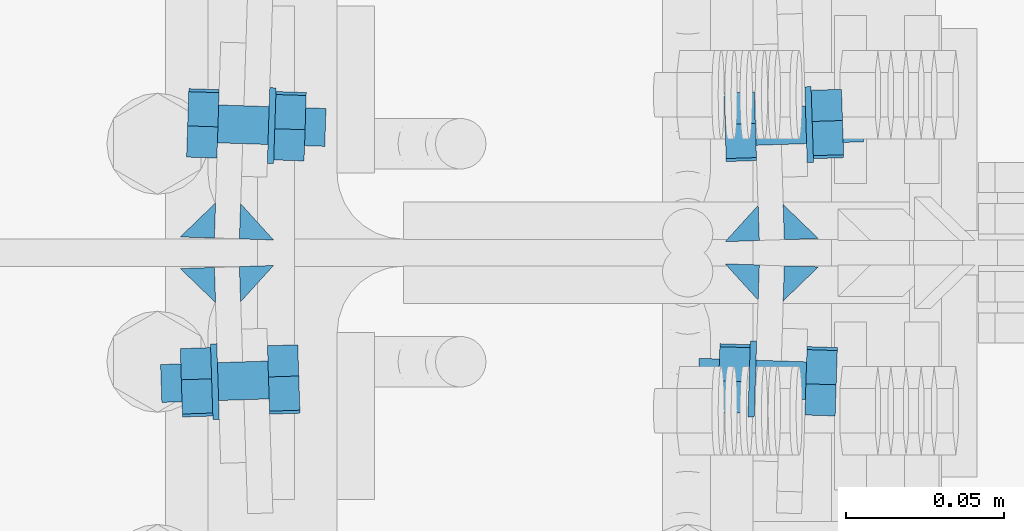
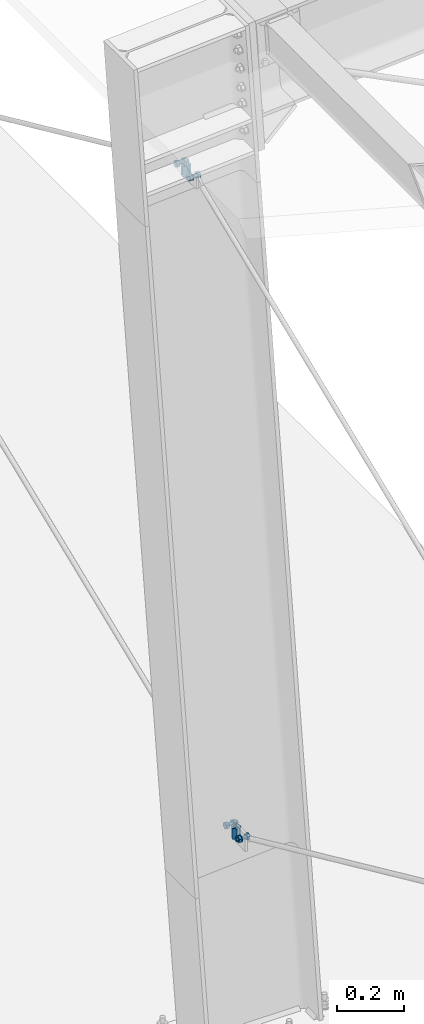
# One storey, part 33 of 72: 16 mechanical fasteners, 8 fasteners.
"""IFC4 building model written with IfcOpenShell, lengths in metres."""

from ifc_helpers import new_model, si_unit, frame, origin_with_axes, place, context, project, spatial, polyline, outline, extrude, type_object, element, save


model = new_model("IFC4")

# Units and contexts
model_context = context("Model", 3, precision=1e-05, world=origin_with_axes())
ifc_project = project(units=[si_unit("LENGTHUNIT", "METRE"), si_unit("AREAUNIT", "SQUARE_METRE"), si_unit("VOLUMEUNIT", "CUBIC_METRE"), si_unit("MASSUNIT", "GRAM", prefix="KILO"), si_unit("TIMEUNIT", "SECOND"), si_unit("PLANEANGLEUNIT", "RADIAN"), si_unit("SOLIDANGLEUNIT", "STERADIAN"), si_unit("THERMODYNAMICTEMPERATUREUNIT", "DEGREE_CELSIUS")], contexts=[model_context])

# Site, building, storey
placement_1 = place(None, origin_with_axes())
site = spatial("IfcSite", under=ifc_project, at=placement_1, Name="Italia", CompositionType="ELEMENT")
building = spatial("IfcBuilding", under=site, at=placement_1, Name="Pensilina", CompositionType="ELEMENT")
storey = spatial("IfcBuildingStorey", under=building, at=placement_1, Name="Storey 0", CompositionType="ELEMENT", Elevation=0.0)

# Mechanical fasteners
mechanical_fastener_type_1 = type_object("IfcMechanicalFastenerType", Name="Collegamento -197_-201", PredefinedType="BOLT")
placement_2 = place(placement_1, origin_with_axes())
mechanical_fastener_1_placement = place(placement_2, origin_with_axes())
element("IfcMechanicalFastener", 1, at=mechanical_fastener_1_placement, inside=storey, type_object=mechanical_fastener_type_1, Name="Collegamento -197_-201", NominalDiameter=0.0119999, context=model_context, shape_type="SweptSolid", body=[
    extrude(outline(polyline([(0.0, 0.0, 0.0), (0.0108352, -0.00515741, 0.0), (0.0207195, 0.00164741, 0.0), (0.0197682, 0.0136096, 0.0), (0.00893307, 0.0187671, 0.0), (-0.000950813, 0.0119623, 0.0), (0.0, 0.0, 0.0)])), frame((0.893182, 5.22959, 0.818424), z_axis=(0.999465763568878, -0.03268326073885, 0.0), x_axis=(0.03268326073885, 0.999465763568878, 0.0)), (0.0, 0.0, 1.0), 0.00959999),
])
mechanical_fastener_type_2 = type_object("IfcMechanicalFastenerType", Name="Collegamento -197_-201", PredefinedType="BOLT")
mechanical_fastener_2_placement = place(placement_2, origin_with_axes())
element("IfcMechanicalFastener", 2, at=mechanical_fastener_2_placement, inside=storey, type_object=mechanical_fastener_type_2, Name="Collegamento -197_-201", NominalDiameter=0.012, context=model_context, shape_type="SweptSolid", body=[
    extrude(outline(polyline([(0.0, 0.0, 0.0), (-0.000204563, -0.00155294, 0.0), (-0.000803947, -0.00300002, 0.0), (-0.00175714, -0.00424266, 0.0), (-0.00300026, -0.00519615, 0.0), (-0.00444698, -0.00579554, 0.0), (-0.00600004, -0.00599998, 0.0), (-0.0075531, -0.00579554, 0.0), (-0.00899982, -0.00519615, 0.0), (-0.0102429, -0.00424266, 0.0), (-0.0111961, -0.00300002, 0.0), (-0.011796, -0.00155294, 0.0), (-0.0120001, 0.0, 0.0), (-0.011796, 0.00155294, 0.0), (-0.0111961, 0.00300002, 0.0), (-0.0102429, 0.00424266, 0.0), (-0.00899982, 0.00519615, 0.0), (-0.0075531, 0.00579554, 0.0), (-0.00600004, 0.00599998, 0.0), (-0.00444698, 0.00579554, 0.0), (-0.00300026, 0.00519615, 0.0), (-0.00175714, 0.00424266, 0.0), (-0.000803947, 0.00300002, 0.0), (-0.000204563, 0.00155294, 0.0), (0.0, 0.0, 0.0)])), frame((0.859719, 5.24658, 0.825228), z_axis=(0.999465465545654, -0.032691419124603, 0.0), x_axis=(0.032691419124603, 0.999465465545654, 0.0)), (0.0, 0.0, 1.0), 0.034),
])
mechanical_fastener_type_3 = type_object("IfcMechanicalFastenerType", Name="Collegamento -197_-201", PredefinedType="BOLT")
mechanical_fastener_3_placement = place(placement_2, origin_with_axes())
element("IfcMechanicalFastener", 3, at=mechanical_fastener_3_placement, inside=storey, type_object=mechanical_fastener_type_3, Name="Collegamento -197_-201", NominalDiameter=0.0119999, context=model_context, shape_type="SweptSolid", body=[
    extrude(outline(polyline([(0.0, 0.0, 0.0), (0.0108356, -0.00515741, 0.0), (0.0207195, 0.00164741, 0.0), (0.0197687, 0.0136096, 0.0), (0.00893307, 0.0187671, 0.0), (-0.000950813, 0.0119623, 0.0), (0.0, 0.0, 0.0)])), frame((0.865596, 5.2305, 0.818424), z_axis=(0.999465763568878, -0.03268326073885, 0.0), x_axis=(0.03268326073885, 0.999465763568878, 0.0)), (0.0, 0.0, 1.0), 0.00959999),
])
mechanical_fastener_type_4 = type_object("IfcMechanicalFastenerType", Name="Collegamento -197_-201", PredefinedType="BOLT")
mechanical_fastener_4_placement = place(placement_2, origin_with_axes())
element("IfcMechanicalFastener", 4, at=mechanical_fastener_4_placement, inside=storey, type_object=mechanical_fastener_type_4, Name="Collegamento -197_-201", NominalDiameter=0.024, context=model_context, shape_type="SweptSolid", body=[
    extrude(outline(polyline([(0.0, 0.0, 0.0), (-0.000408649, -0.00310582, 0.0), (-0.00160742, -0.00599998, 0.0), (-0.00351477, -0.00848526, 0.0), (-0.00600004, -0.0103923, 0.0), (-0.00889397, -0.0115911, 0.0), (-0.0119996, -0.012, 0.0), (-0.0151057, -0.0115911, 0.0), (-0.0179996, -0.0103923, 0.0), (-0.0204849, -0.00848526, 0.0), (-0.0223923, -0.00599998, 0.0), (-0.0235906, -0.00310582, 0.0), (-0.0239997, 0.0, 0.0), (-0.0235906, 0.00310582, 0.0), (-0.0223923, 0.00599998, 0.0), (-0.0204849, 0.00848526, 0.0), (-0.0179996, 0.0103923, 0.0), (-0.0151057, 0.0115911, 0.0), (-0.0119996, 0.012, 0.0), (-0.00889397, 0.0115911, 0.0), (-0.00600004, 0.0103923, 0.0), (-0.00351477, 0.00848526, 0.0), (-0.00160742, 0.00599998, 0.0), (-0.000408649, 0.00310582, 0.0), (0.0, 0.0, 0.0)])), frame((0.875906, 5.25205, 0.825228), z_axis=(0.999466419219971, -0.032663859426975, 0.0), x_axis=(0.032663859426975, 0.999466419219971, 0.0)), (0.0, 0.0, 1.0), 0.00199997),
])

# Fasteners
fastener_type_1 = type_object("IfcFastenerType", Name="Collegamento -197_-201", PredefinedType="WELD")
fastener_1_placement = place(placement_2, origin_with_axes())
element("IfcFastener", 5, at=fastener_1_placement, inside=storey, type_object=fastener_type_1, Name="Collegamento -197_-201", context=model_context, shape_type="SweptSolid", body=[
    extrude(outline(polyline([(0.0, 0.0, 0.0), (-0.0115218, 0.0104669, 0.0), (-0.000354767, 0.0108324, 0.0), (0.0, 0.0, 0.0)])), frame((0.867914, 5.2765, 0.843087), z_axis=(0.0, 0.0, -1.0), x_axis=(0.0, 1.0, 0.0)), (0.0, 0.0, 1.0), 0.0401),
])
fastener_type_2 = type_object("IfcFastenerType", Name="Collegamento -197_-201", PredefinedType="WELD")
fastener_2_placement = place(placement_2, origin_with_axes())
element("IfcFastener", 6, at=fastener_2_placement, inside=storey, type_object=fastener_type_2, Name="Collegamento -197_-201", context=model_context, shape_type="SweptSolid", body=[
    extrude(outline(polyline([(0.0, 0.0, 0.0), (-0.0108128, 0.0111977, 0.0), (0.000354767, 0.0108324, 0.0), (0.0, 0.0, 0.0)])), frame((0.897474, 5.27553, 0.802987), z_axis=(0.0, 0.0, 1.0), x_axis=(0.0, 1.0, 0.0)), (0.0, 0.0, 1.0), 0.0401001),
])

# Mechanical fasteners
mechanical_fastener_type_5 = type_object("IfcMechanicalFastenerType", Name="Collegamento -197_-203", PredefinedType="BOLT")
mechanical_fastener_5_placement = place(placement_2, origin_with_axes())
element("IfcMechanicalFastener", 7, at=mechanical_fastener_5_placement, inside=storey, type_object=mechanical_fastener_type_5, Name="Collegamento -197_-203", NominalDiameter=0.0119999, context=model_context, shape_type="SweptSolid", body=[
    extrude(outline(polyline([(0.0, 0.0, 0.0), (0.0108352, -0.00515747, 0.0), (0.0207191, 0.00164735, 0.0), (0.0197682, 0.0136096, 0.0), (0.00893307, 0.0187671, 0.0), (-0.00095129, 0.0119622, 0.0), (0.0, 0.0, 0.0)])), frame((0.87719, 5.32988, 0.818423), z_axis=(-0.999465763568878, -0.03268326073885, 0.0), x_axis=(0.03268326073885, -0.999465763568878, 0.0)), (0.0, 0.0, 1.0), 0.00959999),
])
mechanical_fastener_type_6 = type_object("IfcMechanicalFastenerType", Name="Collegamento -197_-203", PredefinedType="BOLT")
mechanical_fastener_6_placement = place(placement_2, origin_with_axes())
element("IfcMechanicalFastener", 8, at=mechanical_fastener_6_placement, inside=storey, type_object=mechanical_fastener_type_6, Name="Collegamento -197_-203", NominalDiameter=0.012, context=model_context, shape_type="SweptSolid", body=[
    extrude(outline(polyline([(0.0, 0.0, 0.0), (-0.000204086, -0.00155294, 0.0), (-0.000803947, -0.00300002, 0.0), (-0.00175714, -0.00424266, 0.0), (-0.00299978, -0.00519615, 0.0), (-0.00444698, -0.00579554, 0.0), (-0.00600004, -0.00599998, 0.0), (-0.00755262, -0.00579554, 0.0), (-0.00899982, -0.00519615, 0.0), (-0.0102425, -0.00424266, 0.0), (-0.0111957, -0.00300002, 0.0), (-0.0117955, -0.00155294, 0.0), (-0.0119996, 0.0, 0.0), (-0.0117955, 0.00155294, 0.0), (-0.0111957, 0.00300002, 0.0), (-0.0102425, 0.00424266, 0.0), (-0.00899982, 0.00519615, 0.0), (-0.00755262, 0.00579554, 0.0), (-0.00600004, 0.00599998, 0.0), (-0.00444698, 0.00579554, 0.0), (-0.00299978, 0.00519615, 0.0), (-0.00175714, 0.00424266, 0.0), (-0.000803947, 0.00300002, 0.0), (-0.000204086, 0.00155294, 0.0), (0.0, 0.0, 0.0)])), frame((0.911691, 5.31512, 0.825228), z_axis=(-0.999465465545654, -0.032691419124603, 0.0), x_axis=(0.032691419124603, -0.999465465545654, 0.0)), (0.0, 0.0, 1.0), 0.034),
])
mechanical_fastener_type_7 = type_object("IfcMechanicalFastenerType", Name="Collegamento -197_-203", PredefinedType="BOLT")
mechanical_fastener_7_placement = place(placement_2, origin_with_axes())
element("IfcMechanicalFastener", 9, at=mechanical_fastener_7_placement, inside=storey, type_object=mechanical_fastener_type_7, Name="Collegamento -197_-203", NominalDiameter=0.0119999, context=model_context, shape_type="SweptSolid", body=[
    extrude(outline(polyline([(0.0, 0.0, 0.0), (0.0108352, -0.00515747, 0.0), (0.0207191, 0.00164735, 0.0), (0.0197682, 0.0136096, 0.0), (0.00893307, 0.0187671, 0.0), (-0.00095129, 0.0119622, 0.0), (0.0, 0.0, 0.0)])), frame((0.904776, 5.33079, 0.818423), z_axis=(-0.999464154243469, -0.032732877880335, 0.0), x_axis=(0.032732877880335, -0.999464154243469, 0.0)), (0.0, 0.0, 1.0), 0.0096),
])
mechanical_fastener_type_8 = type_object("IfcMechanicalFastenerType", Name="Collegamento -197_-203", PredefinedType="BOLT")
mechanical_fastener_8_placement = place(placement_2, origin_with_axes())
element("IfcMechanicalFastener", 10, at=mechanical_fastener_8_placement, inside=storey, type_object=mechanical_fastener_type_8, Name="Collegamento -197_-203", NominalDiameter=0.024, context=model_context, shape_type="SweptSolid", body=[
    extrude(outline(polyline([(0.0, 0.0, 0.0), (-0.000408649, -0.00310582, 0.0), (-0.00160694, -0.00599998, 0.0), (-0.00351429, -0.00848526, 0.0), (-0.00599957, -0.0103923, 0.0), (-0.00889349, -0.0115911, 0.0), (-0.0119996, -0.012, 0.0), (-0.0151052, -0.0115911, 0.0), (-0.0179996, -0.0103923, 0.0), (-0.0204844, -0.00848526, 0.0), (-0.0223923, -0.00599998, 0.0), (-0.0235906, -0.00310582, 0.0), (-0.0239992, 0.0, 0.0), (-0.0235906, 0.00310582, 0.0), (-0.0223923, 0.00599998, 0.0), (-0.0204844, 0.00848526, 0.0), (-0.0179996, 0.0103923, 0.0), (-0.0151052, 0.0115911, 0.0), (-0.0119996, 0.012, 0.0), (-0.00889349, 0.0115911, 0.0), (-0.00599957, 0.0103923, 0.0), (-0.00351429, 0.00848526, 0.0), (-0.00160694, 0.00599998, 0.0), (-0.000408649, 0.00310582, 0.0), (0.0, 0.0, 0.0)])), frame((0.895896, 5.3086, 0.825228), z_axis=(-0.999466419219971, -0.032663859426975, 0.0), x_axis=(0.032663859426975, -0.999466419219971, 0.0)), (0.0, 0.0, 1.0), 0.00199997),
])

# Fasteners
fastener_type_3 = type_object("IfcFastenerType", Name="Collegamento -197_-203", PredefinedType="WELD")
fastener_3_placement = place(placement_2, origin_with_axes())
element("IfcFastener", 11, at=fastener_3_placement, inside=storey, type_object=fastener_type_3, Name="Collegamento -197_-203", context=model_context, shape_type="SweptSolid", body=[
    extrude(outline(polyline([(0.0, 0.0, 0.0), (0.0108128, -0.0111977, 0.0), (-0.000354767, -0.0108324, 0.0), (0.0, 0.0, 0.0)])), frame((0.897474, 5.28447, 0.843087), z_axis=(0.0, 0.0, -1.0), x_axis=(0.0, 1.0, 0.0)), (0.0, 0.0, 1.0), 0.0401002),
])
fastener_type_4 = type_object("IfcFastenerType", Name="Collegamento -197_-203", PredefinedType="WELD")
fastener_4_placement = place(placement_2, origin_with_axes())
element("IfcFastener", 12, at=fastener_4_placement, inside=storey, type_object=fastener_type_4, Name="Collegamento -197_-203", context=model_context, shape_type="SweptSolid", body=[
    extrude(outline(polyline([(0.0, 0.0, 0.0), (0.0115218, -0.0104669, 0.0), (0.000354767, -0.0108324, 0.0), (0.0, 0.0, 0.0)])), frame((0.867914, 5.2835, 0.802987), z_axis=(0.0, 0.0, 1.0), x_axis=(0.0, 1.0, 0.0)), (0.0, 0.0, 1.0), 0.0401002),
])

# Mechanical fasteners
mechanical_fastener_type_9 = type_object("IfcMechanicalFastenerType", Name="Collegamento -202_-196", PredefinedType="BOLT")
mechanical_fastener_9_placement = place(placement_2, origin_with_axes())
element("IfcMechanicalFastener", 13, at=mechanical_fastener_9_placement, inside=storey, type_object=mechanical_fastener_type_9, Name="Collegamento -202_-196", NominalDiameter=0.0119997, context=model_context, shape_type="SweptSolid", body=[
    extrude(outline(polyline([(0.0, 0.0, 0.0), (0.0108347, 0.00515747, 0.0), (0.011786, 0.0171196, 0.0), (0.0019021, 0.0239246, 0.0), (-0.00893307, 0.0187671, 0.0), (-0.00988436, 0.00680494, 0.0), (0.0, 0.0, 0.0)])), frame((0.723424, 5.23878, 3.28936), z_axis=(0.999465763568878, 0.03268326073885, 0.0), x_axis=(-0.03268326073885, 0.999465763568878, 0.0)), (0.0, 0.0, 1.0), 0.00959999),
])
mechanical_fastener_type_10 = type_object("IfcMechanicalFastenerType", Name="Collegamento -202_-196", PredefinedType="BOLT")
mechanical_fastener_10_placement = place(placement_2, origin_with_axes())
element("IfcMechanicalFastener", 14, at=mechanical_fastener_10_placement, inside=storey, type_object=mechanical_fastener_type_10, Name="Collegamento -202_-196", NominalDiameter=0.012, context=model_context, shape_type="SweptSolid", body=[
    extrude(outline(polyline([(0.0, 0.0, 0.0), (-0.000204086, -0.00155282, 0.0), (-0.000803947, -0.00300002, 0.0), (-0.00175714, -0.00424266, 0.0), (-0.00299978, -0.00519609, 0.0), (-0.00444698, -0.00579548, 0.0), (-0.00599957, -0.00600004, 0.0), (-0.00755262, -0.00579548, 0.0), (-0.00899982, -0.00519609, 0.0), (-0.0102425, -0.00424266, 0.0), (-0.0111957, -0.00300002, 0.0), (-0.0117955, -0.00155282, 0.0), (-0.0119996, 0.0, 0.0), (-0.0117955, 0.00155282, 0.0), (-0.0111957, 0.00300002, 0.0), (-0.0102425, 0.00424266, 0.0), (-0.00899982, 0.00519609, 0.0), (-0.00755262, 0.00579548, 0.0), (-0.00599957, 0.00600004, 0.0), (-0.00444698, 0.00579548, 0.0), (-0.00299978, 0.00519609, 0.0), (-0.00175714, 0.00424266, 0.0), (-0.000803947, 0.00300002, 0.0), (-0.000204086, 0.00155282, 0.0), (0.0, 0.0, 0.0)])), frame((0.689215, 5.24462, 3.30132), z_axis=(0.999465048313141, 0.032705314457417, 0.0), x_axis=(-0.032705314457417, 0.999465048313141, 0.0)), (0.0, 0.0, 1.0), 0.0340001),
])
mechanical_fastener_type_11 = type_object("IfcMechanicalFastenerType", Name="Collegamento -202_-196", PredefinedType="BOLT")
mechanical_fastener_11_placement = place(placement_2, origin_with_axes())
element("IfcMechanicalFastener", 15, at=mechanical_fastener_11_placement, inside=storey, type_object=mechanical_fastener_type_11, Name="Collegamento -202_-196", NominalDiameter=0.0119999, context=model_context, shape_type="SweptSolid", body=[
    extrude(outline(polyline([(0.0, 0.0, 0.0), (0.0108352, 0.00515747, 0.0), (0.011786, 0.0171196, 0.0), (0.0019021, 0.0239246, 0.0), (-0.00893307, 0.0187671, 0.0), (-0.00988436, 0.00680494, 0.0), (0.0, 0.0, 0.0)])), frame((0.695839, 5.23788, 3.28936), z_axis=(0.999465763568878, 0.032683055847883, 0.0), x_axis=(-0.032683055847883, 0.999465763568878, 0.0)), (0.0, 0.0, 1.0), 0.00960005),
])
mechanical_fastener_type_12 = type_object("IfcMechanicalFastenerType", Name="Collegamento -202_-196", PredefinedType="BOLT")
mechanical_fastener_12_placement = place(placement_2, origin_with_axes())
element("IfcMechanicalFastener", 16, at=mechanical_fastener_12_placement, inside=storey, type_object=mechanical_fastener_type_12, Name="Collegamento -202_-196", NominalDiameter=0.024, context=model_context, shape_type="SweptSolid", body=[
    extrude(outline(polyline([(0.0, 0.0, 0.0), (-0.000408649, -0.00310588, 0.0), (-0.00160694, -0.00600004, 0.0), (-0.00351477, -0.00848532, 0.0), (-0.00599957, -0.0103922, 0.0), (-0.00889397, -0.0115912, 0.0), (-0.0119996, -0.0120001, 0.0), (-0.0151052, -0.0115912, 0.0), (-0.0179996, -0.0103922, 0.0), (-0.0204849, -0.00848532, 0.0), (-0.0223923, -0.00600004, 0.0), (-0.0235906, -0.00310588, 0.0), (-0.0239992, 0.0, 0.0), (-0.0235906, 0.00310588, 0.0), (-0.0223923, 0.00600004, 0.0), (-0.0204849, 0.00848532, 0.0), (-0.0179996, 0.0103922, 0.0), (-0.0151052, 0.0115912, 0.0), (-0.0119996, 0.0120001, 0.0), (-0.00889397, 0.0115912, 0.0), (-0.00599957, 0.0103922, 0.0), (-0.00351477, 0.00848532, 0.0), (-0.00160694, 0.00600004, 0.0), (-0.000408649, 0.00310588, 0.0), (0.0, 0.0, 0.0)])), frame((0.705011, 5.25114, 3.30132), z_axis=(0.999466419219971, 0.032662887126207, 0.0), x_axis=(-0.032662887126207, 0.999466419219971, 0.0)), (0.0, 0.0, 1.0), 0.00200003),
])

# Fasteners
fastener_type_5 = type_object("IfcFastenerType", Name="Collegamento -202_-196", PredefinedType="WELD")
fastener_5_placement = place(placement_2, origin_with_axes())
element("IfcFastener", 17, at=fastener_5_placement, inside=storey, type_object=fastener_type_5, Name="Collegamento -202_-196", context=model_context, shape_type="SweptSolid", body=[
    extrude(outline(polyline([(0.0, 0.0, 0.0), (-0.0108128, 0.0111977, 0.0), (0.00035429, 0.0108324, 0.0), (0.0, 0.0, 0.0)])), frame((0.695437, 5.275, 3.32256), z_axis=(0.0, 0.0, -1.0), x_axis=(0.0, 1.0, 0.0)), (0.0, 0.0, 1.0), 0.0401001),
])
fastener_type_6 = type_object("IfcFastenerType", Name="Collegamento -202_-196", PredefinedType="WELD")
fastener_6_placement = place(placement_2, origin_with_axes())
element("IfcFastener", 18, at=fastener_6_placement, inside=storey, type_object=fastener_type_6, Name="Collegamento -202_-196", context=model_context, shape_type="SweptSolid", body=[
    extrude(outline(polyline([(0.0, 0.0, 0.0), (-0.0115218, 0.010467, 0.0), (-0.00035429, 0.0108324, 0.0), (0.0, 0.0, 0.0)])), frame((0.724997, 5.27597, 3.28246), z_axis=(-1.486396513e-06, 0.0, 1.0), x_axis=(0.0, 1.0, 0.0)), (0.0, 0.0, 1.0), 0.0401001),
])

# Mechanical fasteners
mechanical_fastener_type_13 = type_object("IfcMechanicalFastenerType", Name="Collegamento -202_-198", PredefinedType="BOLT")
mechanical_fastener_13_placement = place(placement_2, origin_with_axes())
element("IfcMechanicalFastener", 19, at=mechanical_fastener_13_placement, inside=storey, type_object=mechanical_fastener_type_13, Name="Collegamento -202_-198", NominalDiameter=0.0119998, context=model_context, shape_type="SweptSolid", body=[
    extrude(outline(polyline([(0.0, 0.0, 0.0), (0.0108352, 0.00515723, 0.0), (0.0117865, 0.0171196, 0.0), (0.00190258, 0.0239244, 0.0), (-0.00893259, 0.0187669, 0.0), (-0.00988388, 0.0068047, 0.0), (0.0, 0.0, 0.0)])), frame((0.707433, 5.32174, 3.28936), z_axis=(-0.999465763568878, 0.032683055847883, 0.0), x_axis=(-0.032683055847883, -0.999465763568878, 0.0)), (0.0, 0.0, 1.0), 0.00960005),
])
mechanical_fastener_type_14 = type_object("IfcMechanicalFastenerType", Name="Collegamento -202_-198", PredefinedType="BOLT")
mechanical_fastener_14_placement = place(placement_2, origin_with_axes())
element("IfcMechanicalFastener", 20, at=mechanical_fastener_14_placement, inside=storey, type_object=mechanical_fastener_type_14, Name="Collegamento -202_-198", NominalDiameter=0.012, context=model_context, shape_type="SweptSolid", body=[
    extrude(outline(polyline([(0.0, 0.0, 0.0), (-0.000204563, -0.00155282, 0.0), (-0.000803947, -0.00300002, 0.0), (-0.00175714, -0.00424266, 0.0), (-0.00300026, -0.00519609, 0.0), (-0.00444698, -0.00579548, 0.0), (-0.00600004, -0.00600004, 0.0), (-0.0075531, -0.00579548, 0.0), (-0.00899982, -0.00519609, 0.0), (-0.0102429, -0.00424266, 0.0), (-0.0111961, -0.00300002, 0.0), (-0.011796, -0.00155282, 0.0), (-0.0120001, 0.0, 0.0), (-0.011796, 0.00155282, 0.0), (-0.0111961, 0.00300002, 0.0), (-0.0102429, 0.00424266, 0.0), (-0.00899982, 0.00519609, 0.0), (-0.0075531, 0.00579548, 0.0), (-0.00600004, 0.00600004, 0.0), (-0.00444698, 0.00579548, 0.0), (-0.00300026, 0.00519609, 0.0), (-0.00175714, 0.00424266, 0.0), (-0.000803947, 0.00300002, 0.0), (-0.000204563, 0.00155282, 0.0), (0.0, 0.0, 0.0)])), frame((0.741187, 5.31368, 3.30132), z_axis=(-0.999465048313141, 0.032705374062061, 0.0), x_axis=(-0.032705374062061, -0.999465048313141, 0.0)), (0.0, 0.0, 1.0), 0.0340001),
])
mechanical_fastener_type_15 = type_object("IfcMechanicalFastenerType", Name="Collegamento -202_-198", PredefinedType="BOLT")
mechanical_fastener_15_placement = place(placement_2, origin_with_axes())
element("IfcMechanicalFastener", 21, at=mechanical_fastener_15_placement, inside=storey, type_object=mechanical_fastener_type_15, Name="Collegamento -202_-198", NominalDiameter=0.0119997, context=model_context, shape_type="SweptSolid", body=[
    extrude(outline(polyline([(0.0, 0.0, 0.0), (0.0108352, 0.00515723, 0.0), (0.0117865, 0.0171196, 0.0), (0.0019021, 0.0239244, 0.0), (-0.00893259, 0.0187669, 0.0), (-0.00988388, 0.0068047, 0.0), (0.0, 0.0, 0.0)])), frame((0.735018, 5.32084, 3.28936), z_axis=(-0.999465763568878, 0.03268326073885, 0.0), x_axis=(-0.03268326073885, -0.999465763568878, 0.0)), (0.0, 0.0, 1.0), 0.00959999),
])
mechanical_fastener_type_16 = type_object("IfcMechanicalFastenerType", Name="Collegamento -202_-198", PredefinedType="BOLT")
mechanical_fastener_16_placement = place(placement_2, origin_with_axes())
element("IfcMechanicalFastener", 22, at=mechanical_fastener_16_placement, inside=storey, type_object=mechanical_fastener_type_16, Name="Collegamento -202_-198", NominalDiameter=0.024, context=model_context, shape_type="SweptSolid", body=[
    extrude(outline(polyline([(0.0, 0.0, 0.0), (-0.000408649, -0.00310588, 0.0), (-0.00160742, -0.00600004, 0.0), (-0.00351477, -0.00848532, 0.0), (-0.00600004, -0.0103922, 0.0), (-0.00889397, -0.0115912, 0.0), (-0.0119996, -0.0120001, 0.0), (-0.0151057, -0.0115912, 0.0), (-0.0179996, -0.0103922, 0.0), (-0.0204849, -0.00848532, 0.0), (-0.0223923, -0.00600004, 0.0), (-0.0235906, -0.00310588, 0.0), (-0.0239997, 0.0, 0.0), (-0.0235906, 0.00310588, 0.0), (-0.0223923, 0.00600004, 0.0), (-0.0204849, 0.00848532, 0.0), (-0.0179996, 0.0103922, 0.0), (-0.0151057, 0.0115912, 0.0), (-0.0119996, 0.0120001, 0.0), (-0.00889397, 0.0115912, 0.0), (-0.00600004, 0.0103922, 0.0), (-0.00351477, 0.00848532, 0.0), (-0.00160742, 0.00600004, 0.0), (-0.000408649, 0.00310588, 0.0), (0.0, 0.0, 0.0)])), frame((0.725, 5.30821, 3.30132), z_axis=(-0.999466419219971, 0.032662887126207, 0.0), x_axis=(-0.032662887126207, -0.999466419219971, 0.0)), (0.0, 0.0, 1.0), 0.00200003),
])

# Fasteners
fastener_type_7 = type_object("IfcFastenerType", Name="Collegamento -202_-198", PredefinedType="WELD")
fastener_7_placement = place(placement_2, origin_with_axes())
element("IfcFastener", 23, at=fastener_7_placement, inside=storey, type_object=fastener_type_7, Name="Collegamento -202_-198", context=model_context, shape_type="SweptSolid", body=[
    extrude(outline(polyline([(0.0, 0.0, 0.0), (0.0115218, -0.010467, 0.0), (0.00035429, -0.0108324, 0.0), (0.0, 0.0, 0.0)])), frame((0.724997, 5.28403, 3.32256), z_axis=(0.0, 0.0, -1.0), x_axis=(0.0, 1.0, 0.0)), (0.0, 0.0, 1.0), 0.0401001),
])
fastener_type_8 = type_object("IfcFastenerType", Name="Collegamento -202_-198", PredefinedType="WELD")
fastener_8_placement = place(placement_2, origin_with_axes())
element("IfcFastener", 24, at=fastener_8_placement, inside=storey, type_object=fastener_type_8, Name="Collegamento -202_-198", context=model_context, shape_type="SweptSolid", body=[
    extrude(outline(polyline([(0.0, 0.0, 0.0), (0.0108128, -0.0111977, 0.0), (-0.00035429, -0.0108324, 0.0), (0.0, 0.0, 0.0)])), frame((0.695437, 5.285, 3.28246), z_axis=(0.0, 0.0, 1.0), x_axis=(0.0, 1.0, 0.0)), (0.0, 0.0, 1.0), 0.0401001),
])

save(model, "model.ifc")
